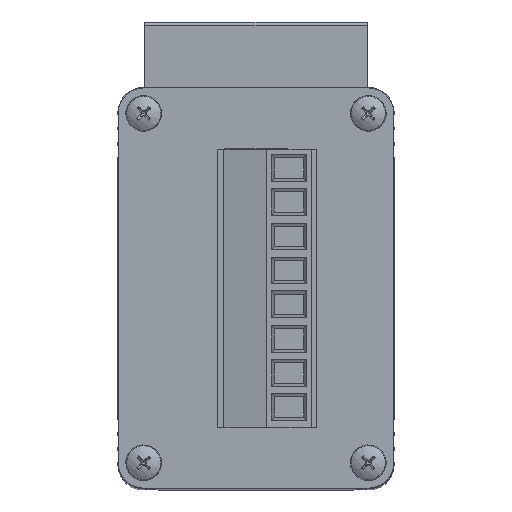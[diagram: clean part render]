
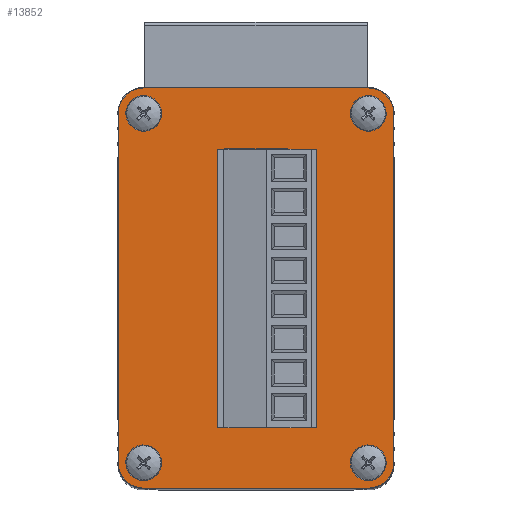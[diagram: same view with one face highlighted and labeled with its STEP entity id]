
A CAD part, top view. The second image highlights one B-rep face of the part: STEP entity #13852.
In plain terms, the highlighted planar face has unit normal (0, 0, 1).
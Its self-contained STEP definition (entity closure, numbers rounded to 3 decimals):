
#198=FACE_BOUND('',#1828,.T.);
#199=FACE_BOUND('',#1829,.T.);
#200=FACE_BOUND('',#1830,.T.);
#201=FACE_BOUND('',#1831,.T.);
#202=FACE_BOUND('',#1832,.T.);
#420=PLANE('',#14949);
#1046=FACE_OUTER_BOUND('',#1827,.T.);
#1827=EDGE_LOOP('',(#10145,#10146,#10147,#10148,#10149,#10150,#10151,#10152));
#1828=EDGE_LOOP('',(#10153,#10154,#10155,#10156));
#1829=EDGE_LOOP('',(#10157));
#1830=EDGE_LOOP('',(#10158));
#1831=EDGE_LOOP('',(#10159));
#1832=EDGE_LOOP('',(#10160));
#2702=LINE('',#20162,#4258);
#2706=LINE('',#20170,#4262);
#2709=LINE('',#20176,#4265);
#2712=LINE('',#20181,#4268);
#2898=LINE('',#20785,#4454);
#2904=LINE('',#20799,#4460);
#2914=LINE('',#20817,#4470);
#2920=LINE('',#20830,#4476);
#4258=VECTOR('',#16145,10.);
#4262=VECTOR('',#16151,10.);
#4265=VECTOR('',#16156,10.);
#4268=VECTOR('',#16161,10.);
#4454=VECTOR('',#16699,10.);
#4460=VECTOR('',#16713,10.);
#4470=VECTOR('',#16731,10.);
#4476=VECTOR('',#16745,10.);
#5760=CIRCLE('',#14770,1.);
#5763=CIRCLE('',#14774,1.);
#5766=CIRCLE('',#14778,1.);
#5769=CIRCLE('',#14782,1.);
#5865=CIRCLE('',#14935,2.85);
#5867=CIRCLE('',#14939,2.85);
#5869=CIRCLE('',#14943,2.85);
#5871=CIRCLE('',#14947,2.85);
#6229=VERTEX_POINT('',#20160);
#6230=VERTEX_POINT('',#20161);
#6233=VERTEX_POINT('',#20169);
#6235=VERTEX_POINT('',#20175);
#6247=VERTEX_POINT('',#20214);
#6250=VERTEX_POINT('',#20222);
#6253=VERTEX_POINT('',#20230);
#6256=VERTEX_POINT('',#20238);
#6476=VERTEX_POINT('',#20777);
#6477=VERTEX_POINT('',#20779);
#6478=VERTEX_POINT('',#20784);
#6481=VERTEX_POINT('',#20793);
#6482=VERTEX_POINT('',#20798);
#6485=VERTEX_POINT('',#20811);
#6486=VERTEX_POINT('',#20816);
#6489=VERTEX_POINT('',#20825);
#7581=EDGE_CURVE('',#6229,#6230,#2702,.T.);
#7585=EDGE_CURVE('',#6230,#6233,#2706,.T.);
#7588=EDGE_CURVE('',#6233,#6235,#2709,.T.);
#7591=EDGE_CURVE('',#6235,#6229,#2712,.T.);
#7608=EDGE_CURVE('',#6247,#6247,#5760,.T.);
#7612=EDGE_CURVE('',#6250,#6250,#5763,.T.);
#7616=EDGE_CURVE('',#6253,#6253,#5766,.T.);
#7620=EDGE_CURVE('',#6256,#6256,#5769,.T.);
#7882=EDGE_CURVE('',#6477,#6476,#5865,.T.);
#7885=EDGE_CURVE('',#6478,#6477,#2898,.T.);
#7890=EDGE_CURVE('',#6481,#6478,#5867,.T.);
#7893=EDGE_CURVE('',#6482,#6481,#2904,.T.);
#7902=EDGE_CURVE('',#6485,#6482,#5869,.T.);
#7905=EDGE_CURVE('',#6486,#6485,#2914,.T.);
#7910=EDGE_CURVE('',#6489,#6486,#5871,.T.);
#7913=EDGE_CURVE('',#6476,#6489,#2920,.T.);
#10145=ORIENTED_EDGE('',*,*,#7913,.T.);
#10146=ORIENTED_EDGE('',*,*,#7910,.T.);
#10147=ORIENTED_EDGE('',*,*,#7905,.T.);
#10148=ORIENTED_EDGE('',*,*,#7902,.T.);
#10149=ORIENTED_EDGE('',*,*,#7893,.T.);
#10150=ORIENTED_EDGE('',*,*,#7890,.T.);
#10151=ORIENTED_EDGE('',*,*,#7885,.T.);
#10152=ORIENTED_EDGE('',*,*,#7882,.T.);
#10153=ORIENTED_EDGE('',*,*,#7581,.T.);
#10154=ORIENTED_EDGE('',*,*,#7585,.T.);
#10155=ORIENTED_EDGE('',*,*,#7588,.T.);
#10156=ORIENTED_EDGE('',*,*,#7591,.T.);
#10157=ORIENTED_EDGE('',*,*,#7608,.T.);
#10158=ORIENTED_EDGE('',*,*,#7612,.T.);
#10159=ORIENTED_EDGE('',*,*,#7616,.T.);
#10160=ORIENTED_EDGE('',*,*,#7620,.T.);
#13852=ADVANCED_FACE('',(#1046,#198,#199,#200,#201,#202),#420,.T.);
#14770=AXIS2_PLACEMENT_3D('',#20216,#16194,#16195);
#14774=AXIS2_PLACEMENT_3D('',#20224,#16203,#16204);
#14778=AXIS2_PLACEMENT_3D('',#20232,#16212,#16213);
#14782=AXIS2_PLACEMENT_3D('',#20240,#16221,#16222);
#14935=AXIS2_PLACEMENT_3D('',#20780,#16693,#16694);
#14939=AXIS2_PLACEMENT_3D('',#20794,#16707,#16708);
#14943=AXIS2_PLACEMENT_3D('',#20812,#16725,#16726);
#14947=AXIS2_PLACEMENT_3D('',#20826,#16739,#16740);
#14949=AXIS2_PLACEMENT_3D('',#20837,#16752,#16753);
#16145=DIRECTION('',(0.,1.,0.));
#16151=DIRECTION('',(1.,0.,0.));
#16156=DIRECTION('',(0.,-1.,0.));
#16161=DIRECTION('',(-1.,0.,0.));
#16194=DIRECTION('center_axis',(0.,0.,-1.));
#16195=DIRECTION('ref_axis',(-1.,0.,0.));
#16203=DIRECTION('center_axis',(0.,0.,-1.));
#16204=DIRECTION('ref_axis',(-1.,0.,0.));
#16212=DIRECTION('center_axis',(0.,0.,-1.));
#16213=DIRECTION('ref_axis',(-1.,0.,0.));
#16221=DIRECTION('center_axis',(0.,0.,-1.));
#16222=DIRECTION('ref_axis',(-1.,0.,0.));
#16693=DIRECTION('center_axis',(0.,0.,1.));
#16694=DIRECTION('ref_axis',(0.,-1.,0.));
#16699=DIRECTION('',(-1.,0.,0.));
#16707=DIRECTION('center_axis',(0.,0.,1.));
#16708=DIRECTION('ref_axis',(-1.,0.,0.));
#16713=DIRECTION('',(0.,1.,0.));
#16725=DIRECTION('center_axis',(0.,0.,1.));
#16726=DIRECTION('ref_axis',(0.,1.,0.));
#16731=DIRECTION('',(1.,0.,0.));
#16739=DIRECTION('center_axis',(0.,0.,1.));
#16740=DIRECTION('ref_axis',(1.,0.,0.));
#16745=DIRECTION('',(0.,-1.,0.));
#16752=DIRECTION('center_axis',(0.,0.,1.));
#16753=DIRECTION('ref_axis',(1.,0.,0.));
#20160=CARTESIAN_POINT('',(-3.5,-15.635,90.));
#20161=CARTESIAN_POINT('',(-3.5,15.635,90.));
#20162=CARTESIAN_POINT('',(-3.5,7.818,90.));
#20169=CARTESIAN_POINT('',(3.5,15.635,90.));
#20170=CARTESIAN_POINT('',(1.75,15.635,90.));
#20175=CARTESIAN_POINT('',(3.5,-15.635,90.));
#20176=CARTESIAN_POINT('',(3.5,-7.818,90.));
#20181=CARTESIAN_POINT('',(-1.75,-15.635,90.));
#20214=CARTESIAN_POINT('',(-11.6,19.6,90.));
#20216=CARTESIAN_POINT('Origin',(-12.6,19.6,90.));
#20222=CARTESIAN_POINT('',(13.6,-19.6,90.));
#20224=CARTESIAN_POINT('Origin',(12.6,-19.6,90.));
#20230=CARTESIAN_POINT('',(13.6,19.6,90.));
#20232=CARTESIAN_POINT('Origin',(12.6,19.6,90.));
#20238=CARTESIAN_POINT('',(-11.6,-19.6,90.));
#20240=CARTESIAN_POINT('Origin',(-12.6,-19.6,90.));
#20777=CARTESIAN_POINT('',(-15.45,19.6,90.));
#20779=CARTESIAN_POINT('',(-12.6,22.45,90.));
#20780=CARTESIAN_POINT('Origin',(-12.6,19.6,90.));
#20784=CARTESIAN_POINT('',(12.6,22.45,90.));
#20785=CARTESIAN_POINT('',(-12.6,22.45,90.));
#20793=CARTESIAN_POINT('',(15.45,19.6,90.));
#20794=CARTESIAN_POINT('Origin',(12.6,19.6,90.));
#20798=CARTESIAN_POINT('',(15.45,-19.6,90.));
#20799=CARTESIAN_POINT('',(15.45,19.6,90.));
#20811=CARTESIAN_POINT('',(12.6,-22.45,90.));
#20812=CARTESIAN_POINT('Origin',(12.6,-19.6,90.));
#20816=CARTESIAN_POINT('',(-12.6,-22.45,90.));
#20817=CARTESIAN_POINT('',(12.6,-22.45,90.));
#20825=CARTESIAN_POINT('',(-15.45,-19.6,90.));
#20826=CARTESIAN_POINT('Origin',(-12.6,-19.6,90.));
#20830=CARTESIAN_POINT('',(-15.45,-19.6,90.));
#20837=CARTESIAN_POINT('Origin',(0.,0.,
90.));
